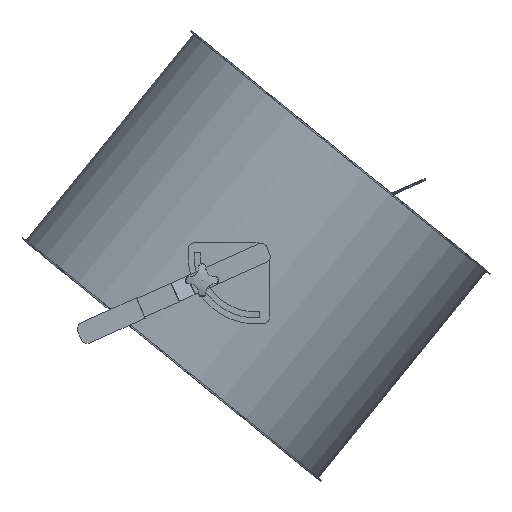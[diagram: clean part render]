
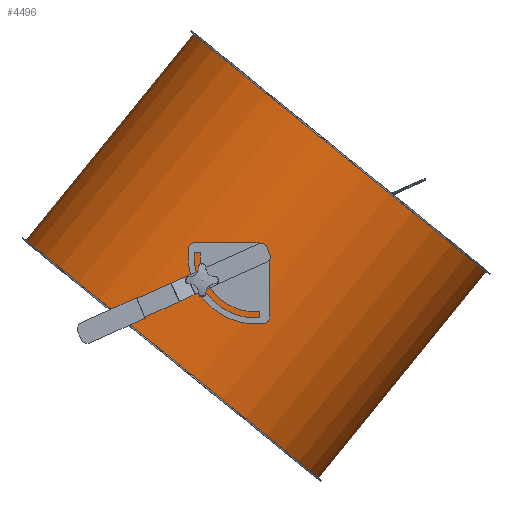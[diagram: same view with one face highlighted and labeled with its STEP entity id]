
A CAD part, left-side view. The second image highlights one B-rep face of the part: STEP entity #4496.
In plain terms, the highlighted cylindrical face has radius 281 mm (diameter 562 mm), a full revolution.
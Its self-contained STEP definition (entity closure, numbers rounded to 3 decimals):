
#4385=CARTESIAN_POINT('',(280.344,19.193,200.0));
#4386=VERTEX_POINT('',#4385);
#4396=CARTESIAN_POINT('',(280.344,19.191,200.));
#4397=CARTESIAN_POINT('',(280.344,19.191,200.002));
#4398=CARTESIAN_POINT('',(280.344,19.191,200.004));
#4399=CARTESIAN_POINT('',(280.344,19.191,200.006));
#4400=CARTESIAN_POINT('',(280.344,19.19,202.908));
#4401=CARTESIAN_POINT('',(280.436,17.907,208.697));
#4402=CARTESIAN_POINT('',(280.755,12.391,215.75));
#4403=CARTESIAN_POINT('',(281.01,4.456,219.649));
#4404=CARTESIAN_POINT('',(281.01,-4.4,219.663));
#4405=CARTESIAN_POINT('',(280.758,-12.349,215.779));
#4406=CARTESIAN_POINT('',(280.401,-18.495,207.997));
#4407=CARTESIAN_POINT('',(280.296,-19.847,198.948));
#4408=CARTESIAN_POINT('',(280.456,-17.554,191.425));
#4409=CARTESIAN_POINT('',(280.614,-14.826,187.353));
#4410=CARTESIAN_POINT('',(280.746,-12.027,184.712));
#4411=CARTESIAN_POINT('',(280.869,-8.841,182.501));
#4412=CARTESIAN_POINT('',(281.009,-3.454,180.348));
#4413=CARTESIAN_POINT('',(281.01,4.409,180.338));
#4414=CARTESIAN_POINT('',(280.756,12.366,184.227));
#4415=CARTESIAN_POINT('',(280.491,16.964,190.088));
#4416=CARTESIAN_POINT('',(280.367,18.864,195.615));
#4417=CARTESIAN_POINT('',(280.344,19.191,198.551));
#4418=CARTESIAN_POINT('',(280.344,19.191,200.));
#4419=B_SPLINE_CURVE_WITH_KNOTS('',3,(#4396,#4397,#4398,#4399,#4400,#4401,#4402,#4403,#4404,#4405,#4406,#4407,#4408,#4409,#4410,#4411,#4412,#4413,#4414,#4415,#4416,#4417,#4418),.UNSPECIFIED.,.T.,.U.,(4,3,1,1,1,1,1,1,1,1,1,1,1,1,1,1,1,1,4),(-9.043,-9.042,-8.396,-7.751,-7.105,-6.459,-5.813,-5.167,-4.306,-3.875,-3.445,-3.229,-3.014,-2.584,-1.938,-1.292,-0.646,-0.323,0.),.UNSPECIFIED.);
#4420=EDGE_CURVE('',#4386,#4386,#4419,.T.);
#4425=CARTESIAN_POINT('',(0.0,0.0,0.0));
#4426=DIRECTION('',(0.0,0.0,1.0));
#4427=DIRECTION('',(-1.0,0.0,0.0));
#4428=AXIS2_PLACEMENT_3D('',#4425,#4426,#4427);
#4429=CYLINDRICAL_SURFACE('',#4428,281.0);
#4430=CARTESIAN_POINT('',(281.0,0.,398.0));
#4431=VERTEX_POINT('',#4430);
#4432=CARTESIAN_POINT('',(0.0,0.0,398.0));
#4433=DIRECTION('',(0.0,0.0,-1.0));
#4434=DIRECTION('',(-1.0,0.0,0.0));
#4435=AXIS2_PLACEMENT_3D('',#4432,#4433,#4434);
#4436=CIRCLE('',#4435,281.0);
#4437=EDGE_CURVE('',#4431,#4431,#4436,.T.);
#4438=ORIENTED_EDGE('',*,*,#4437,.T.);
#4439=EDGE_LOOP('',(#4438));
#4440=FACE_OUTER_BOUND('',#4439,.T.);
#4441=CARTESIAN_POINT('',(-281.0,0.,2.0));
#4442=VERTEX_POINT('',#4441);
#4443=CARTESIAN_POINT('',(0.0,0.0,2.0));
#4444=DIRECTION('',(0.0,0.0,1.0));
#4445=DIRECTION('',(-1.0,0.0,0.0));
#4446=AXIS2_PLACEMENT_3D('',#4443,#4444,#4445);
#4447=CIRCLE('',#4446,281.0);
#4448=EDGE_CURVE('',#4442,#4442,#4447,.T.);
#4449=ORIENTED_EDGE('',*,*,#4448,.T.);
#4450=EDGE_LOOP('',(#4449));
#4451=FACE_BOUND('',#4450,.T.);
#4452=CARTESIAN_POINT('',(-280.599,15.,200.0));
#4453=VERTEX_POINT('',#4452);
#4454=CARTESIAN_POINT('',(-280.599,15.,200.0));
#4455=CARTESIAN_POINT('',(-280.599,15.,201.884));
#4456=CARTESIAN_POINT('',(-280.62,14.623,203.893));
#4457=CARTESIAN_POINT('',(-280.696,13.093,207.589));
#4458=CARTESIAN_POINT('',(-280.749,11.938,209.275));
#4459=CARTESIAN_POINT('',(-280.85,9.275,211.938));
#4460=CARTESIAN_POINT('',(-280.904,7.589,213.093));
#4461=CARTESIAN_POINT('',(-280.979,3.893,214.623));
#4462=CARTESIAN_POINT('',(-281.0,1.884,215.0));
#4463=CARTESIAN_POINT('',(-281.0,-1.884,215.0));
#4464=CARTESIAN_POINT('',(-280.979,-3.893,214.623));
#4465=CARTESIAN_POINT('',(-280.904,-7.589,213.093));
#4466=CARTESIAN_POINT('',(-280.85,-9.275,211.938));
#4467=CARTESIAN_POINT('',(-280.749,-11.938,209.275));
#4468=CARTESIAN_POINT('',(-280.696,-13.093,207.589));
#4469=CARTESIAN_POINT('',(-280.62,-14.623,203.893));
#4470=CARTESIAN_POINT('',(-280.599,-15.0,201.884));
#4471=CARTESIAN_POINT('',(-280.599,-15.0,198.116));
#4472=CARTESIAN_POINT('',(-280.62,-14.623,196.107));
#4473=CARTESIAN_POINT('',(-280.696,-13.093,192.411));
#4474=CARTESIAN_POINT('',(-280.749,-11.938,190.725));
#4475=CARTESIAN_POINT('',(-280.85,-9.275,188.062));
#4476=CARTESIAN_POINT('',(-280.904,-7.589,186.907));
#4477=CARTESIAN_POINT('',(-280.979,-3.893,185.377));
#4478=CARTESIAN_POINT('',(-281.0,-1.884,185.0));
#4479=CARTESIAN_POINT('',(-281.0,1.884,185.0));
#4480=CARTESIAN_POINT('',(-280.979,3.893,185.377));
#4481=CARTESIAN_POINT('',(-280.904,7.589,186.907));
#4482=CARTESIAN_POINT('',(-280.85,9.275,188.062));
#4483=CARTESIAN_POINT('',(-280.749,11.938,190.725));
#4484=CARTESIAN_POINT('',(-280.696,13.093,192.411));
#4485=CARTESIAN_POINT('',(-280.62,14.623,196.107));
#4486=CARTESIAN_POINT('',(-280.599,15.0,198.116));
#4487=CARTESIAN_POINT('',(-280.599,15.0,200.0));
#4488=B_SPLINE_CURVE_WITH_KNOTS('',3,(#4454,#4455,#4456,#4457,#4458,#4459,#4460,#4461,#4462,#4463,#4464,#4465,#4466,#4467,#4468,#4469,#4470,#4471,#4472,#4473,#4474,#4475,#4476,#4477,#4478,#4479,#4480,#4481,#4482,#4483,#4484,#4485,#4486,#4487),.UNSPECIFIED.,.T.,.U.,(4,2,2,2,2,2,2,2,2,2,2,2,2,2,2,2,4),(0.0,0.565,1.13,1.695,2.261,2.826,3.391,3.956,4.521,5.086,5.651,6.217,6.782,7.347,7.912,8.477,9.042),.UNSPECIFIED.);
#4489=EDGE_CURVE('',#4453,#4453,#4488,.T.);
#4490=ORIENTED_EDGE('',*,*,#4489,.T.);
#4491=EDGE_LOOP('',(#4490));
#4492=FACE_BOUND('',#4491,.T.);
#4493=ORIENTED_EDGE('',*,*,#4420,.F.);
#4494=EDGE_LOOP('',(#4493));
#4495=FACE_BOUND('',#4494,.T.);
#4496=ADVANCED_FACE('',(#4440,#4451,#4492,#4495),#4429,.T.);
